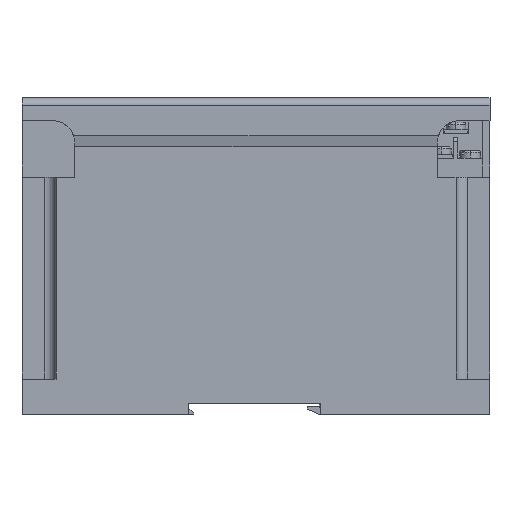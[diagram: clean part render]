
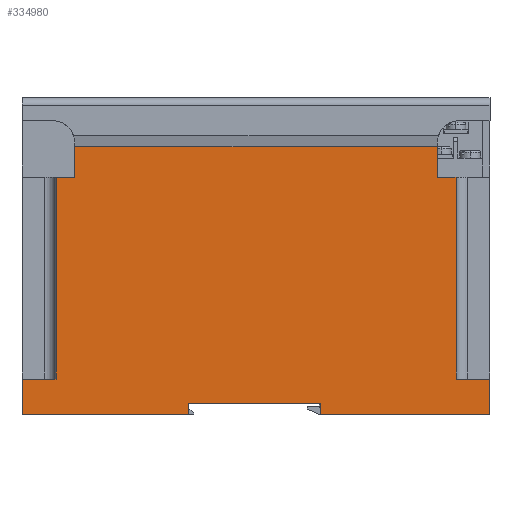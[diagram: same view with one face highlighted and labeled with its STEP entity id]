
A CAD part, left-side view. The second image highlights one B-rep face of the part: STEP entity #334980.
In plain terms, the highlighted planar face has unit normal (-1, 0, 0).
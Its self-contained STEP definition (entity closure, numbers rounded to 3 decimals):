
#85 = EDGE_LOOP ( 'NONE', ( #226220, #14047, #8425, #278056, #220857, #125053, #289557, #97357, #40956, #133220, #32312, #231039, #156945, #133311, #37157, #72912 ) ) ;
#833 = VERTEX_POINT ( 'NONE', #290178 ) ;
#2326 = LINE ( 'NONE', #125711, #63339 ) ;
#6164 = DIRECTION ( 'NONE',  ( 0., -1., 0. ) ) ;
#7978 = VERTEX_POINT ( 'NONE', #228482 ) ;
#8425 = ORIENTED_EDGE ( 'NONE', *, *, #90548, .F. ) ;
#11286 = VERTEX_POINT ( 'NONE', #89147 ) ;
#14047 = ORIENTED_EDGE ( 'NONE', *, *, #22782, .F. ) ;
#18947 = CARTESIAN_POINT ( 'NONE',  ( -21., 14., 71. ) ) ;
#19343 = EDGE_CURVE ( 'NONE', #7978, #337969, #63316, .T. ) ;
#19748 = DIRECTION ( 'NONE',  ( 0., 0., -1. ) ) ;
#21950 = CARTESIAN_POINT ( 'NONE',  ( -21., 45., 3. ) ) ;
#22782 = EDGE_CURVE ( 'NONE', #227298, #182554, #32136, .T. ) ;
#24822 = VERTEX_POINT ( 'NONE', #336118 ) ;
#25198 = EDGE_CURVE ( 'NONE', #86322, #111044, #221911, .T. ) ;
#25303 = EDGE_CURVE ( 'NONE', #84837, #11286, #254255, .T. ) ;
#25534 = CARTESIAN_POINT ( 'NONE',  ( -21., 124., 9.5 ) ) ;
#27019 = VERTEX_POINT ( 'NONE', #25534 ) ;
#31865 = DIRECTION ( 'NONE',  ( 0., 0., -1. ) ) ;
#32136 = LINE ( 'NONE', #109066, #73002 ) ;
#32312 = ORIENTED_EDGE ( 'NONE', *, *, #25198, .F. ) ;
#37157 = ORIENTED_EDGE ( 'NONE', *, *, #55594, .F. ) ;
#40956 = ORIENTED_EDGE ( 'NONE', *, *, #19343, .T. ) ;
#44338 = EDGE_CURVE ( 'NONE', #833, #182554, #113135, .T. ) ;
#44369 = VERTEX_POINT ( 'NONE', #162109 ) ;
#45608 = VECTOR ( 'NONE', #295839, 1000. ) ;
#49869 = CARTESIAN_POINT ( 'NONE',  ( -21., 0., 84. ) ) ;
#52533 = EDGE_CURVE ( 'NONE', #86322, #44369, #2326, .T. ) ;
#55594 = EDGE_CURVE ( 'NONE', #27019, #24822, #189538, .T. ) ;
#57395 = LINE ( 'NONE', #296508, #326430 ) ;
#61216 = VECTOR ( 'NONE', #154119, 1000. ) ;
#62043 = DIRECTION ( 'NONE',  ( 0., -1., 0. ) ) ;
#62995 = DIRECTION ( 'NONE',  ( 0., 0., -1. ) ) ;
#63316 = LINE ( 'NONE', #245267, #332454 ) ;
#63339 = VECTOR ( 'NONE', #255560, 1000. ) ;
#72912 = ORIENTED_EDGE ( 'NONE', *, *, #140204, .T. ) ;
#73002 = VECTOR ( 'NONE', #238983, 1000. ) ;
#75768 = EDGE_CURVE ( 'NONE', #317523, #11286, #310314, .T. ) ;
#76583 = EDGE_CURVE ( 'NONE', #229226, #317523, #337634, .T. ) ;
#79561 = LINE ( 'NONE', #331306, #238479 ) ;
#82189 = CARTESIAN_POINT ( 'NONE',  ( -21., 80., 0. ) ) ;
#84837 = VERTEX_POINT ( 'NONE', #97572 ) ;
#86322 = VERTEX_POINT ( 'NONE', #283137 ) ;
#89147 = CARTESIAN_POINT ( 'NONE',  ( -21., 0., 0. ) ) ;
#89616 = CARTESIAN_POINT ( 'NONE',  ( -21., 9., 9.5 ) ) ;
#90548 = EDGE_CURVE ( 'NONE', #229226, #227298, #103957, .T. ) ;
#93905 = VECTOR ( 'NONE', #276417, 1000. ) ;
#95390 = DIRECTION ( 'NONE',  ( 0., -1., 0. ) ) ;
#97357 = ORIENTED_EDGE ( 'NONE', *, *, #209681, .T. ) ;
#97572 = CARTESIAN_POINT ( 'NONE',  ( -21., 0., 9.5 ) ) ;
#103894 = VECTOR ( 'NONE', #62043, 1000. ) ;
#103957 = LINE ( 'NONE', #258881, #165094 ) ;
#105243 = CARTESIAN_POINT ( 'NONE',  ( -21., 115., 63. ) ) ;
#109066 = CARTESIAN_POINT ( 'NONE',  ( -21., 80., 3. ) ) ;
#111044 = VERTEX_POINT ( 'NONE', #174900 ) ;
#113135 = LINE ( 'NONE', #318203, #235450 ) ;
#113590 = CARTESIAN_POINT ( 'NONE',  ( -21., 0., 0. ) ) ;
#119273 = CARTESIAN_POINT ( 'NONE',  ( -21., 115., 9.5 ) ) ;
#123020 = AXIS2_PLACEMENT_3D ( 'NONE', #265356, #315534, #31865 ) ;
#125053 = ORIENTED_EDGE ( 'NONE', *, *, #25303, .F. ) ;
#125711 = CARTESIAN_POINT ( 'NONE',  ( -21., 110., 71. ) ) ;
#133220 = ORIENTED_EDGE ( 'NONE', *, *, #308455, .F. ) ;
#133266 = PLANE ( 'NONE',  #123020 ) ;
#133311 = ORIENTED_EDGE ( 'NONE', *, *, #319067, .F. ) ;
#140204 = EDGE_CURVE ( 'NONE', #27019, #833, #57395, .T. ) ;
#147221 = EDGE_CURVE ( 'NONE', #206594, #84837, #79561, .T. ) ;
#147223 = DIRECTION ( 'NONE',  ( 0., 1., 0. ) ) ;
#154119 = DIRECTION ( 'NONE',  ( 0., 0., 1. ) ) ;
#156945 = ORIENTED_EDGE ( 'NONE', *, *, #246382, .T. ) ;
#157915 = CARTESIAN_POINT ( 'NONE',  ( -21., 0., 63. ) ) ;
#159070 = DIRECTION ( 'NONE',  ( 0., 1., 0. ) ) ;
#162109 = CARTESIAN_POINT ( 'NONE',  ( -21., 110., 63. ) ) ;
#165094 = VECTOR ( 'NONE', #315744, 1000. ) ;
#171662 = CARTESIAN_POINT ( 'NONE',  ( -21., 110., 71. ) ) ;
#172843 = FACE_OUTER_BOUND ( 'NONE', #85, .T. ) ;
#174900 = CARTESIAN_POINT ( 'NONE',  ( -21., 14., 71. ) ) ;
#176670 = CARTESIAN_POINT ( 'NONE',  ( -21., 45., 0. ) ) ;
#182554 = VERTEX_POINT ( 'NONE', #82189 ) ;
#189538 = LINE ( 'NONE', #273767, #103894 ) ;
#197362 = CARTESIAN_POINT ( 'NONE',  ( -21., 80., 3. ) ) ;
#197415 = VECTOR ( 'NONE', #279609, 1000. ) ;
#204154 = LINE ( 'NONE', #229469, #61216 ) ;
#206594 = VERTEX_POINT ( 'NONE', #89616 ) ;
#209681 = EDGE_CURVE ( 'NONE', #206594, #7978, #204154, .T. ) ;
#216252 = LINE ( 'NONE', #119273, #93905 ) ;
#220857 = ORIENTED_EDGE ( 'NONE', *, *, #75768, .T. ) ;
#221868 = VECTOR ( 'NONE', #159070, 1000. ) ;
#221899 = LINE ( 'NONE', #18947, #197415 ) ;
#221911 = LINE ( 'NONE', #171662, #295106 ) ;
#226220 = ORIENTED_EDGE ( 'NONE', *, *, #44338, .T. ) ;
#227298 = VERTEX_POINT ( 'NONE', #197362 ) ;
#228482 = CARTESIAN_POINT ( 'NONE',  ( -21., 9., 63. ) ) ;
#229226 = VERTEX_POINT ( 'NONE', #324488 ) ;
#229469 = CARTESIAN_POINT ( 'NONE',  ( -21., 9., 9.5 ) ) ;
#231039 = ORIENTED_EDGE ( 'NONE', *, *, #52533, .T. ) ;
#235450 = VECTOR ( 'NONE', #6164, 1000. ) ;
#238479 = VECTOR ( 'NONE', #95390, 1000. ) ;
#238983 = DIRECTION ( 'NONE',  ( 0., 0., -1. ) ) ;
#245267 = CARTESIAN_POINT ( 'NONE',  ( -21., 0., 63. ) ) ;
#246382 = EDGE_CURVE ( 'NONE', #44369, #334247, #323887, .T. ) ;
#254255 = LINE ( 'NONE', #49869, #270612 ) ;
#255560 = DIRECTION ( 'NONE',  ( 0., 0., -1. ) ) ;
#258881 = CARTESIAN_POINT ( 'NONE',  ( -21., 80., 3. ) ) ;
#260105 = VECTOR ( 'NONE', #19748, 1000. ) ;
#265356 = CARTESIAN_POINT ( 'NONE',  ( -21., 0., 84. ) ) ;
#270612 = VECTOR ( 'NONE', #336973, 1000. ) ;
#273767 = CARTESIAN_POINT ( 'NONE',  ( -21., 124., 9.5 ) ) ;
#276417 = DIRECTION ( 'NONE',  ( 0., 0., 1. ) ) ;
#278056 = ORIENTED_EDGE ( 'NONE', *, *, #76583, .T. ) ;
#279609 = DIRECTION ( 'NONE',  ( 0., 0., -1. ) ) ;
#282197 = DIRECTION ( 'NONE',  ( 0., -1., 0. ) ) ;
#283137 = CARTESIAN_POINT ( 'NONE',  ( -21., 110., 71. ) ) ;
#289557 = ORIENTED_EDGE ( 'NONE', *, *, #147221, .F. ) ;
#290178 = CARTESIAN_POINT ( 'NONE',  ( -21., 124., 0. ) ) ;
#295106 = VECTOR ( 'NONE', #282197, 1000. ) ;
#295839 = DIRECTION ( 'NONE',  ( 0., -1., 0. ) ) ;
#296508 = CARTESIAN_POINT ( 'NONE',  ( -21., 124., 84. ) ) ;
#308455 = EDGE_CURVE ( 'NONE', #111044, #337969, #221899, .T. ) ;
#310314 = LINE ( 'NONE', #113590, #45608 ) ;
#315534 = DIRECTION ( 'NONE',  ( 1., 0., 0. ) ) ;
#315744 = DIRECTION ( 'NONE',  ( 0., 1., 0. ) ) ;
#317523 = VERTEX_POINT ( 'NONE', #176670 ) ;
#318203 = CARTESIAN_POINT ( 'NONE',  ( -21., 0., 0. ) ) ;
#319067 = EDGE_CURVE ( 'NONE', #24822, #334247, #216252, .T. ) ;
#323887 = LINE ( 'NONE', #157915, #221868 ) ;
#324488 = CARTESIAN_POINT ( 'NONE',  ( -21., 45., 3. ) ) ;
#326430 = VECTOR ( 'NONE', #62995, 1000. ) ;
#331306 = CARTESIAN_POINT ( 'NONE',  ( -21., 0., 9.5 ) ) ;
#332310 = CARTESIAN_POINT ( 'NONE',  ( -21., 14., 63. ) ) ;
#332454 = VECTOR ( 'NONE', #147223, 1000. ) ;
#334247 = VERTEX_POINT ( 'NONE', #105243 ) ;
#334980 = ADVANCED_FACE ( 'NONE', ( #172843 ), #133266, .F. ) ;
#336118 = CARTESIAN_POINT ( 'NONE',  ( -21., 115., 9.5 ) ) ;
#336973 = DIRECTION ( 'NONE',  ( 0., 0., -1. ) ) ;
#337634 = LINE ( 'NONE', #21950, #260105 ) ;
#337969 = VERTEX_POINT ( 'NONE', #332310 ) ;
